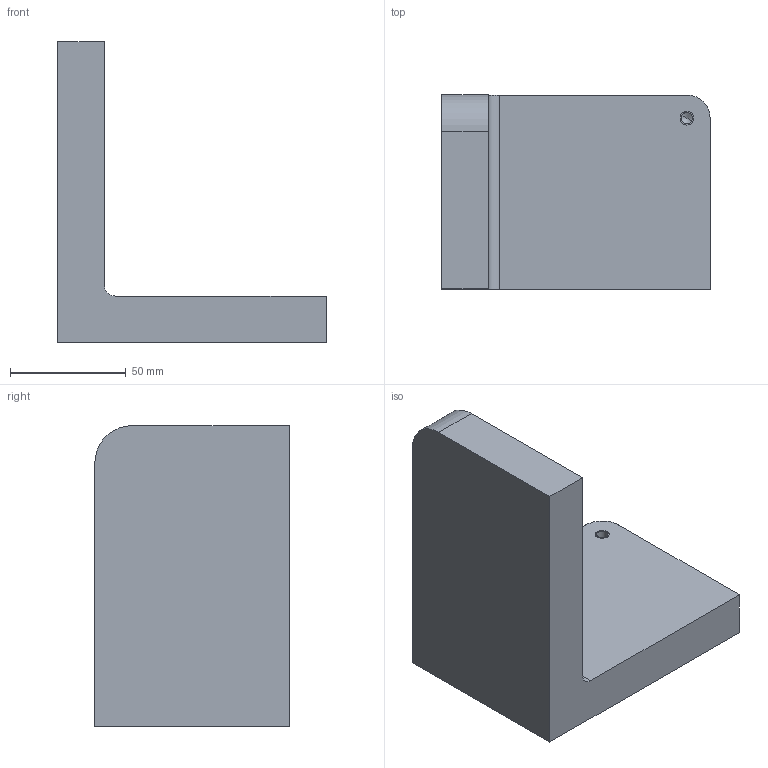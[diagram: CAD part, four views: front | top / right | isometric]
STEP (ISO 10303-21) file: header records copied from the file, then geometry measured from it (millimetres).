
FILE_DESCRIPTION(('CATIA V5 STEP Exchange'),'2;1');
FILE_NAME('C:\_Andres\UNIVERSIDAD\IQS\ASIGNATURAS\DAO\EXF\EXF-16172c\2inicio\Icart_Martori_Ej01_v16.stp','2017-03-05T15:11:07+00:00',('none'),('none'),'CATIA Version 5-6 Release 2014 SP1 HF18','CATIA V5 STEP AP203','none');
FILE_SCHEMA(('CONFIG_CONTROL_DESIGN'));
Length unit declared in the file: millimetre
Products named in the file (1): Icart_Martori_Ej01_v16
Bounding box: 116 x 84 x 130 mm (x, y, z)
Volume: 378289.9 mm3; surface area: 50298.8 mm2
Topology: 1 solids, 2 shells, 17 faces, 43 edges, 27 vertices
Faces by surface type: plane 8, cylinder 7, cone 2
Entity records: 513 total; most frequent: CARTESIAN_POINT 83, ORIENTED_EDGE 78, DIRECTION 69, EDGE_CURVE 41, AXIS2_PLACEMENT_3D 29, VECTOR 27, LINE 27, VERTEX_POINT 27
